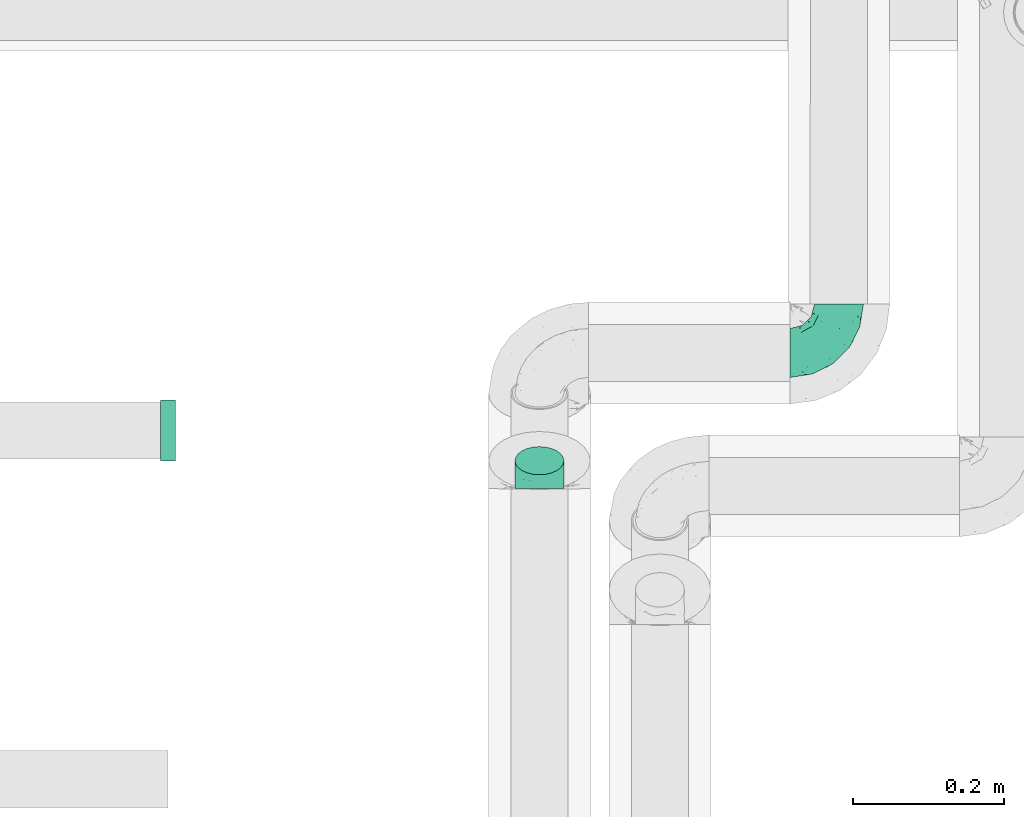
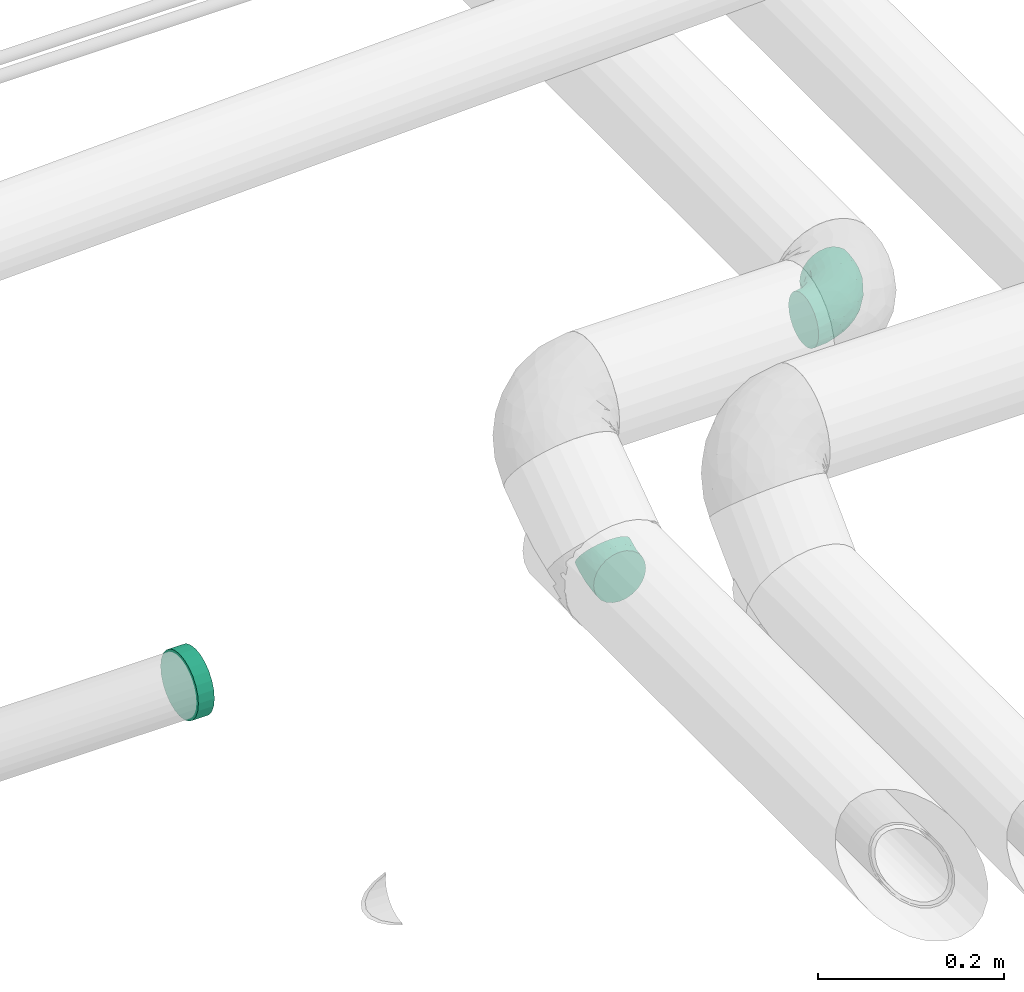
# One storey, part 127 of 156: 3 flow fittings.
"""IFC2X3 building model written with IfcOpenShell, lengths in millimetres."""

from ifc_helpers import new_model, entity, si_unit, converted_unit, derived_unit, direction, frame, origin_with_axes, place, context, subcontext, project, spatial, open_shell, surface_model, source, transform, mapped, type_object, element, save


model = new_model("IFC2X3")

# Units and contexts
model_context = context("Model", 3, precision=0.01, world=frame((0.0, 4.29681676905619e-09, 0.0)), true_north=direction((4.01073788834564e-13, 1.0)))
plan_context = context("Plan", 3, precision=0.01, world=frame((0.0, 4.29681676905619e-09, 0.0)), true_north=direction((4.01073788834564e-13, 1.0)))
body_context = subcontext(model_context, "Body", "Model", "MODEL_VIEW")
ifc_project = project(units=[converted_unit("PLANEANGLEUNIT", "DEGREE", entity("IfcPositiveLengthMeasure", 0.0174532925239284), si_unit("PLANEANGLEUNIT", "RADIAN"), dimensions=[0, 0, 0, 0, 0, 0, 0]), si_unit("AREAUNIT", "SQUARE_METRE"), si_unit("LENGTHUNIT", "METRE", prefix="MILLI"), si_unit("MASSUNIT", "GRAM", prefix="KILO"), si_unit("POWERUNIT", "WATT"), si_unit("PRESSUREUNIT", "PASCAL", prefix="KILO"), si_unit("FORCEUNIT", "NEWTON", prefix="KILO"), si_unit("ELECTRICVOLTAGEUNIT", "VOLT"), si_unit("ELECTRICCURRENTUNIT", "AMPERE"), si_unit("THERMODYNAMICTEMPERATUREUNIT", "DEGREE_CELSIUS"), si_unit("TIMEUNIT", "SECOND"), si_unit("VOLUMEUNIT", "CUBIC_METRE"), derived_unit("LINEARVELOCITYUNIT", [(si_unit("LENGTHUNIT", "METRE"), 1), (si_unit("TIMEUNIT", "SECOND"), -1)]), derived_unit("VOLUMETRICFLOWRATEUNIT", [(si_unit("VOLUMEUNIT", "CUBIC_METRE"), 1), (si_unit("TIMEUNIT", "SECOND"), -1)]), derived_unit("THERMALTRANSMITTANCEUNIT", [(si_unit("POWERUNIT", "WATT"), 1), (si_unit("THERMODYNAMICTEMPERATUREUNIT", "KELVIN"), -1), (si_unit("AREAUNIT", "SQUARE_METRE"), -1)]), derived_unit("SOUNDPRESSUREUNIT", [(si_unit("PRESSUREUNIT", "PASCAL"), 1)])], contexts=[model_context, plan_context])

# Site, building, storey
site_placement = place(None, frame((0.0, -4.29681676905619e-09, 0.0), z_axis=(0.0, 0.0, 1.0), x_axis=(1.0, 0.0, 0.0)))
site = spatial("IfcSite", under=ifc_project, at=site_placement, CompositionType="ELEMENT")
building_placement = place(site_placement, frame((0.0, 4.29681676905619e-09, 0.0), z_axis=(0.0, 0.0, 1.0), x_axis=(1.0, 0.0, 0.0)))
building = spatial("IfcBuilding", under=site, at=building_placement, Name="mc-building", CompositionType="ELEMENT")
storey_placement = place(building_placement, frame((0.0, 0.0, 205200.0), z_axis=(0.0, 0.0, 1.0), x_axis=(1.0, 0.0, 0.0)))
storey = spatial("IfcBuildingStorey", under=building, at=storey_placement, Name="Nivå D + 1,2 m", CompositionType="ELEMENT", Elevation=205200.0)

# Flow fittings
pipe_fitting_type_1 = type_object("IfcPipeFittingType", Name="magi_pipe_elbow_short_001", PredefinedType="BEND")
shared_shape_1 = source(origin_with_axes(), body_context, "Body", "SurfaceModel", [
    surface_model("IfcShellBasedSurfaceModel", [(-20.44742, 16.25, -28.14582), (-20.44742, 8.41162, -31.39259), (-20.44742, 0.0, -32.5), (-20.44742, -22.98097, -22.98097), (-20.44742, 31.39259, -8.41162), (-20.44742, 28.14582, -16.25), (-20.44742, 22.98097, -22.98097), (-20.44742, -32.5, 0.0), (-20.44742, -31.39259, 8.41162), (-20.44742, -16.25, -28.14582), (-20.44742, -8.41162, -31.39259), (-20.44742, -31.39259, -8.41162), (-20.44742, -28.14582, -16.25), (-20.44742, -22.98097, 22.98097), (-20.44742, 31.39259, 8.41162), (-20.44742, 28.14582, 16.25), (-20.44742, 16.25, 28.14582), (-20.44742, 22.98097, 22.98097), (-20.44742, 0.0, 32.5), (-20.44742, 8.41162, 31.39259), (-20.44742, -28.14582, 16.25), (-20.44742, -8.41162, 31.39259), (-20.44742, -16.25, 28.14582), (-20.44742, 32.5, 0.0), (16.76496, 11.70611, -32.5), (11.94933, 18.60285, -31.39259), (7.46187, 25.02959, -28.14582), (3.6084, 30.54835, -22.98097), (0.65153, 34.78304, -16.25), (-1.20724, 37.44508, -8.41162), (35.37116, -14.94083, 0.0), (26.06806, -1.61736, -28.14582), (29.92153, -7.13612, -22.98097), (21.5806, 4.80938, -31.39259), (32.8784, -11.37082, -16.25), (34.73716, -14.03286, -8.41162), (-1.20724, 37.44508, 8.41162), (29.92153, -7.13612, 22.98097), (3.6084, 30.54835, 22.98097), (0.65153, 34.78304, 16.25), (7.46187, 25.02959, 28.14582), (11.94933, 18.60285, 31.39259), (16.76496, 11.70611, 32.5), (32.8784, -11.37082, 16.25), (34.73716, -14.03286, 8.41162), (26.06806, -1.61736, 28.14582), (21.5806, 4.80938, 31.39259), (-1.84123, 38.35306, 0.0), (-8.07174, -25.27191, 19.344), (3.08739, -9.81447, 29.59585), (-10.28617, -12.19665, 29.84636), (-3.10169, -18.61516, 25.30373), (21.08619, -16.09953, 19.344), (-4.82066, -3.20527, 32.11735), (-4.44783, -30.04281, 0.0), (1.96174, -29.39183, 5.59145), (-1.94084, 6.16971, 32.32921), (-2.32108, -28.5935, 11.66973), (7.01593, -22.30283, 18.78585), (15.41626, -4.11129, 29.84636), (-8.55352, 27.19064, 20.32037), (-6.69659, 21.28768, 26.23998), (14.813, -25.36412, 5.67974), (8.81022, -28.00667, 0.0), (18.27279, -22.11516, 11.66973), (14.43697, -12.89278, 25.34219), (-10.51703, 33.43243, 6.17831), (-10.69488, 33.99778, 0.0), (-9.882, 31.41376, 12.98992), (-6.76496, 13.56117, 30.29286), (9.12135, 1.7729, 32.14365), (20.84626, -22.08591, 0.0), (-8.49363, -3.76835, -32.14365), (-2.32108, -28.5935, -11.66973), (18.27279, -22.11516, -11.66973), (14.81299, -25.36412, -5.67974), (5.7875, 0.1318, -32.11735), (-1.94084, 6.16971, -32.32921), (-8.55352, 27.19064, -20.32037), (1.96173, -29.39183, -5.59145), (-6.69659, 21.28767, -26.23999), (-10.51703, 33.43243, -6.17831), (-9.88201, 31.41376, -12.98992), (13.20024, -13.48697, -25.30373), (7.01593, -22.30283, -18.78585), (-8.07174, -25.27191, -19.344), (-4.45587, -18.83601, -25.34219), (-2.21712, 14.99181, -30.29286), (-10.28617, -12.19665, -29.84636), (3.08739, -9.81447, -29.59585), (15.41626, -4.11129, -29.84636), (21.08619, -16.09953, -19.344)], [open_shell([[[0, 1, 2]], [[0, 2, 3]], [[4, 5, 6]], [[6, 0, 7]], [[6, 7, 8]], [[9, 3, 10]], [[3, 2, 10]], [[11, 7, 12]], [[3, 12, 7]], [[3, 7, 0]], [[8, 4, 6]], [[13, 14, 4]], [[15, 14, 16]], [[13, 16, 14]], [[17, 15, 16]], [[16, 18, 19]], [[20, 13, 8]], [[8, 13, 4]], [[21, 18, 22]], [[16, 13, 22]], [[16, 22, 18]], [[23, 4, 14]], [[24, 25, 26]], [[24, 26, 27]], [[27, 28, 29]], [[24, 27, 30]], [[30, 27, 29]], [[31, 30, 32]], [[31, 33, 24]], [[34, 30, 35]], [[30, 34, 32]], [[24, 30, 31]], [[29, 36, 30]], [[37, 30, 36]], [[38, 36, 39]], [[36, 40, 37]], [[40, 36, 38]], [[41, 42, 40]], [[30, 43, 44]], [[37, 43, 30]], [[45, 42, 46]], [[45, 37, 40]], [[42, 45, 40]], [[29, 47, 36]], [[20, 48, 13]], [[49, 50, 51]], [[22, 13, 51]], [[43, 37, 52]], [[18, 21, 53]], [[21, 22, 50]], [[8, 54, 55]], [[53, 56, 18]], [[18, 56, 19]], [[42, 41, 56]], [[48, 57, 58]], [[45, 46, 59]], [[17, 60, 15]], [[61, 17, 16]], [[62, 55, 63]], [[58, 57, 64]], [[58, 52, 65]], [[23, 66, 67]], [[20, 8, 57]], [[23, 14, 66]], [[14, 15, 68]], [[16, 19, 69]], [[69, 61, 16]], [[48, 51, 13]], [[63, 55, 54]], [[57, 55, 62]], [[70, 56, 53]], [[45, 65, 37]], [[38, 39, 60]], [[70, 46, 42]], [[44, 71, 30]], [[64, 43, 52]], [[62, 44, 64]], [[51, 65, 49]], [[8, 55, 57]], [[63, 71, 62]], [[62, 64, 57]], [[8, 7, 54]], [[66, 68, 36]], [[67, 66, 47]], [[49, 59, 70]], [[50, 53, 21]], [[41, 69, 56]], [[41, 40, 69]], [[58, 65, 51]], [[38, 60, 61]], [[19, 56, 69]], [[60, 39, 68]], [[40, 61, 69]], [[65, 45, 59]], [[61, 60, 17]], [[43, 64, 44]], [[44, 62, 71]], [[40, 38, 61]], [[60, 68, 15]], [[39, 36, 68]], [[56, 70, 42]], [[49, 70, 53]], [[57, 48, 20]], [[51, 48, 58]], [[65, 52, 37]], [[64, 52, 58]], [[68, 66, 14]], [[47, 66, 36]], [[51, 50, 22]], [[53, 50, 49]], [[70, 59, 46]], [[65, 59, 49]], [[10, 2, 72]], [[73, 74, 75]], [[24, 33, 76]], [[2, 1, 77]], [[78, 6, 5]], [[11, 79, 54]], [[6, 78, 80]], [[34, 35, 74]], [[4, 81, 82]], [[31, 32, 83]], [[84, 85, 86]], [[1, 0, 87]], [[79, 11, 73]], [[71, 63, 75]], [[35, 75, 74]], [[85, 73, 12]], [[9, 86, 3]], [[26, 25, 87]], [[12, 73, 11]], [[3, 85, 12]], [[88, 9, 10]], [[89, 88, 72]], [[1, 87, 77]], [[86, 9, 88]], [[23, 67, 81]], [[35, 30, 71]], [[47, 29, 81]], [[25, 77, 87]], [[75, 79, 73]], [[82, 5, 4]], [[78, 28, 27]], [[89, 83, 86]], [[87, 80, 26]], [[77, 76, 72]], [[0, 80, 87]], [[6, 80, 0]], [[84, 74, 73]], [[24, 77, 25]], [[90, 33, 31]], [[91, 83, 32]], [[27, 26, 80]], [[83, 89, 90]], [[74, 84, 91]], [[84, 86, 83]], [[79, 75, 63]], [[80, 78, 27]], [[54, 79, 63]], [[91, 32, 34]], [[90, 76, 33]], [[77, 24, 76]], [[54, 7, 11]], [[23, 81, 4]], [[75, 35, 71]], [[78, 5, 82]], [[29, 28, 82]], [[78, 82, 28]], [[77, 72, 2]], [[89, 72, 76]], [[86, 85, 3]], [[73, 85, 84]], [[74, 91, 34]], [[83, 91, 84]], [[47, 81, 67]], [[82, 81, 29]], [[72, 88, 10]], [[86, 88, 89]], [[83, 90, 31]], [[76, 90, 89]]])]),
])
flow_fitting_1_placement = place(storey_placement, frame((329697.42979, 461515.58914, 4051.25266), z_axis=(1.0, 0.0, 0.0), x_axis=(0.0, 0.999997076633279, 0.00241800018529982)))
element("IfcFlowFitting", 1, at=flow_fitting_1_placement, inside=storey, type_object=pipe_fitting_type_1, Name="magi_pipe_elbow_short_001", context=body_context, shape_type="MappedRepresentation", body=[
    mapped(shared_shape_1, transform((0.0, 0.0, 0.0), scale=1.0)),
])
shared_shape_2 = source(origin_with_axes(), body_context, "Body", "SurfaceModel", [
    surface_model("IfcShellBasedSurfaceModel", [(-64.98326, 16.25, -28.14582), (-64.98326, 8.41162, -31.39259), (-64.98326, 0.0, -32.5), (-64.98326, -22.98097, -22.98097), (-64.98326, 31.39259, -8.41162), (-64.98326, 28.14582, -16.25), (-64.98326, 22.98097, -22.98097), (-64.98326, -32.5, 0.0), (-64.98326, -31.39259, 8.41162), (-64.98326, -16.25, -28.14582), (-64.98326, -8.41162, -31.39259), (-64.98326, -31.39259, -8.41162), (-64.98326, -28.14582, -16.25), (-64.98326, -22.98097, 22.98097), (-64.98326, 31.39259, 8.41162), (-64.98326, 28.14582, 16.25), (-64.98326, 16.25, 28.14582), (-64.98326, 22.98097, 22.98097), (-64.98326, 0.0, 32.5), (-64.98326, 8.41162, 31.39259), (-64.98326, -28.14582, 16.25), (-64.98326, -8.41162, 31.39259), (-64.98326, -16.25, 28.14582), (-64.98326, 32.5, 0.0), (0.01674, 64.98325, -32.5), (-8.39488, 64.98542, -31.39259), (-16.23326, 64.98744, -28.14582), (22.99771, 64.97733, -22.98097), (-22.96423, 64.98917, -22.98097), (-28.12908, 64.99051, -16.25), (-31.37585, 64.99134, -8.41162), (8.42836, 64.98109, -31.39259), (16.26674, 64.97906, -28.14582), (28.16257, 64.976, -16.25), (32.51674, 64.97488, 0.0), (31.40933, 64.97516, -8.41162), (-32.48326, 64.99163, 0.0), (-31.37585, 64.99134, 8.41162), (-28.12908, 64.99051, 16.25), (-16.23326, 64.98744, 28.14582), (22.99771, 64.97733, 22.98097), (-22.96423, 64.98917, 22.98097), (0.01674, 64.98325, 32.5), (-8.39488, 64.98542, 31.39259), (28.16257, 64.976, 16.25), (31.40933, 64.97516, 8.41162), (16.26674, 64.97906, 28.14582), (8.42836, 64.98109, 31.39259), (-43.89066, -28.50353, 10.21466), (-47.64957, -25.24696, 18.24354), (-34.85888, -27.72956, 0.0), (-48.99915, -29.96879, 0.0), (-8.31321, -11.23072, 12.53006), (-2.25661, -8.69189, 6.83298), (1.88723, -1.88772, 13.46086), (-49.63572, -4.30541, 31.94428), (-45.49593, 4.98175, 32.44457), (11.11182, 7.92666, 12.20785), (19.85132, 26.42184, 16.16572), (7.61851, 11.77667, 20.74153), (-32.34517, -0.29294, 31.50102), (-47.52496, -12.26193, 29.22893), (-25.22467, -7.67596, 27.16557), (-41.67273, -18.56609, 24.14352), (-29.10781, -24.91197, 6.68517), (-21.2706, -20.80731, 0.0), (-11.77863, -7.61547, 20.74153), (-5.79767, 5.79917, 26.57286), (-31.75562, 51.8635, 14.12535), (-27.13636, 50.59009, 21.35108), (-12.11726, 56.04907, 30.4419), (-4.44183, 48.60119, 32.42014), (-50.08287, 12.74652, 30.70079), (-8.47472, 21.75652, 31.9116), (-16.13717, 5.96142, 30.34953), (-3.30882, 17.55198, 29.86714), (-56.21537, 19.68135, 26.48146), (-11.2868, 31.95288, 32.4415), (-24.06301, 24.06921, 31.70992), (-19.34438, 14.19833, 32.3329), (-51.3717, 34.61441, 7.14455), (-51.87149, 31.76372, 14.12319), (-40.33959, 40.34999, 12.14838), (-50.78983, 27.09253, 21.32833), (18.57682, 41.66795, 24.14352), (-33.69077, 43.07772, 18.39584), (12.27418, 47.52179, 29.22893), (25.25924, 47.64307, 18.24354), (28.51483, 43.88331, 10.21466), (-7.68232, -13.88506, 0.0), (-15.77174, -17.88153, 8.41956), (4.3182, 49.63461, 31.94428), (-35.70066, 13.91931, 31.91834), (-31.8802, 7.96314, 32.4862), (20.81279, 21.26524, 0.0), (24.91947, 29.10139, 6.68517), (17.88559, 15.76713, 8.41956), (29.98141, 48.99143, 0.0), (-34.54121, 22.04823, 30.0603), (-26.42695, -19.84451, 16.16572), (-23.55115, 41.99729, 27.31506), (-19.84121, 54.48647, 26.61642), (-34.19659, 52.42263, 6.97234), (-40.72027, 42.62188, 5.71912), (14.98065, 26.16119, 22.02686), (7.68246, 25.22269, 27.16557), (-36.84022, 48.74517, 0.0), (-30.0773, 34.31338, 26.70471), (-44.74202, 22.06031, 27.36777), (-0.4853, 0.48543, 19.19548), (-18.53631, 33.63685, 31.24173), (-25.88267, 31.45821, 29.57083), (-14.04359, 44.02919, 30.95143), (-34.24828, 36.28945, 23.02058), (-41.72697, 34.92084, 18.12163), (0.30127, 32.34509, 31.50102), (-26.04302, -14.24426, 22.66266), (8.8704, 2.35004, 6.48122), (27.73854, 34.85173, 0.0), (13.88704, 7.67874, 0.0), (-48.73567, 36.85278, 0.0), (3.10236, -3.10316, 0.0), (-47.91132, 27.98902, -21.64728), (-51.84402, 31.77266, -14.12686), (-26.54199, -8.20713, -27.26622), (-28.20949, -0.40798, -30.91139), (-13.05426, -0.54925, -26.63303), (-51.43579, 4.1094, -32.39418), (-47.39643, -29.09488, -10.59562), (-40.82035, -24.10145, -17.60363), (-30.99567, -24.3715, -10.90458), (-47.2693, 13.26671, -30.81863), (-35.79159, 7.68184, -32.49296), (-27.97668, 47.91852, -21.64728), (-52.60017, 34.10124, -7.11216), (-20.38582, 51.01128, -26.88527), (-13.25454, 47.27272, -30.81863), (-41.34079, 41.35144, -7.75913), (19.42871, 46.99795, -24.53823), (11.22668, 41.14011, -28.90501), (12.8265, 54.87008, -29.57882), (-6.32936, -11.44358, -8.558), (-6.40449, -8.42741, -14.80676), (3.49315, -2.77928, -8.57419), (-18.95348, 17.56921, -32.48158), (-30.79517, 19.22942, -31.53259), (-51.00602, 20.39897, -26.88527), (-54.70101, -25.87177, -18.88281), (-31.60689, 36.91412, -24.47839), (-30.02545, 30.03318, -28.53535), (-39.71181, 27.45079, -25.81928), (2.85794, -0.58994, -13.92966), (-47.00295, -19.4166, -24.53823), (24.11196, 40.81414, -17.60363), (29.10709, 47.38893, -10.59562), (24.37949, 30.98939, -10.90458), (-54.87338, -12.81237, -29.57882), (4.10998, 47.86576, -31.90584), (-20.55079, -15.83082, -17.72953), (-24.25295, -13.25852, -22.73604), (-11.77377, -8.04229, -20.31504), (-35.45427, -14.84225, -25.51707), (-41.143, -11.21608, -28.90501), (-47.86682, -4.09765, -31.90584), (-24.34353, 39.97588, -27.52939), (-34.08769, 52.60896, -7.11216), (-4.09615, 51.43684, -32.39418), (-11.46489, 11.46784, -30.68945), (0.41524, 28.20939, -30.91139), (1.37448, 15.25449, -27.10423), (-31.75931, 51.8522, -14.12686), (-39.02056, 39.03061, -16.01805), (25.88586, 54.69435, -18.88281), (18.84191, 26.09169, -17.45488), (10.48347, 12.30678, -18.02662), (13.26477, 24.24954, -22.73604), (6.7253, 27.73064, -28.39233), (-7.67261, 35.79357, -32.49296), (-39.49734, 20.9154, -29.29235), (-19.37083, 31.62306, -31.3742), (-0.30053, 0.30061, -18.83322), (-15.04468, -18.17522, -5.59169), (16.66949, 16.1273, -12.1051), (18.1791, 15.04, -5.59169), (3.83854, 9.89876, -22.79822), (-16.13159, -16.66534, -12.1051)], [open_shell([[[0, 1, 2]], [[0, 2, 3]], [[4, 5, 6]], [[6, 0, 7]], [[6, 7, 8]], [[9, 3, 10]], [[3, 2, 10]], [[11, 7, 12]], [[3, 12, 7]], [[3, 7, 0]], [[8, 4, 6]], [[13, 14, 4]], [[15, 14, 16]], [[13, 16, 14]], [[17, 15, 16]], [[16, 18, 19]], [[20, 13, 8]], [[8, 13, 4]], [[21, 18, 22]], [[16, 13, 22]], [[16, 22, 18]], [[23, 4, 14]], [[24, 25, 26]], [[27, 24, 26]], [[28, 29, 30]], [[27, 26, 28]], [[27, 28, 30]], [[31, 27, 32]], [[31, 24, 27]], [[33, 34, 35]], [[34, 33, 27]], [[30, 34, 27]], [[30, 36, 34]], [[36, 37, 38]], [[36, 38, 39]], [[36, 39, 40]], [[39, 38, 41]], [[42, 39, 43]], [[34, 44, 45]], [[40, 44, 34]], [[46, 42, 47]], [[42, 46, 40]], [[39, 42, 40]], [[40, 34, 36]], [[48, 49, 20]], [[50, 48, 51]], [[52, 53, 54]], [[8, 48, 20]], [[8, 51, 48]], [[18, 55, 56]], [[20, 49, 13]], [[57, 58, 59]], [[60, 61, 62]], [[63, 22, 13]], [[63, 61, 22]], [[64, 50, 65]], [[62, 66, 67]], [[38, 68, 69]], [[43, 70, 71]], [[19, 72, 16]], [[73, 74, 75]], [[16, 76, 17]], [[21, 55, 18]], [[77, 78, 79]], [[80, 81, 82]], [[15, 83, 81]], [[84, 40, 46]], [[23, 14, 80]], [[14, 15, 81]], [[68, 85, 69]], [[83, 15, 17]], [[18, 56, 19]], [[46, 86, 84]], [[17, 76, 83]], [[87, 58, 88]], [[38, 37, 68]], [[89, 90, 65]], [[42, 91, 47]], [[65, 90, 64]], [[42, 43, 71]], [[92, 93, 79]], [[88, 45, 44]], [[44, 40, 87]], [[87, 88, 44]], [[94, 95, 96]], [[88, 97, 45]], [[98, 72, 92]], [[49, 99, 63]], [[69, 100, 101]], [[82, 102, 103]], [[104, 105, 59]], [[106, 102, 36]], [[98, 107, 108]], [[102, 82, 68]], [[86, 46, 47]], [[69, 41, 38]], [[109, 54, 57]], [[110, 100, 111]], [[22, 61, 21]], [[101, 39, 41]], [[70, 43, 39]], [[112, 77, 71]], [[84, 86, 105]], [[96, 95, 58]], [[100, 69, 113]], [[72, 19, 56]], [[108, 113, 83]], [[81, 114, 82]], [[112, 110, 77]], [[91, 71, 115]], [[62, 61, 63]], [[55, 61, 60]], [[116, 99, 66]], [[74, 62, 67]], [[91, 86, 47]], [[105, 86, 115]], [[75, 105, 115]], [[109, 67, 66]], [[59, 105, 67]], [[48, 64, 99]], [[99, 49, 48]], [[63, 13, 49]], [[40, 84, 87]], [[58, 87, 84]], [[92, 72, 56]], [[76, 72, 108]], [[102, 68, 37]], [[82, 114, 85]], [[98, 111, 107]], [[112, 70, 101]], [[114, 83, 113]], [[82, 103, 80]], [[92, 79, 78]], [[115, 71, 77]], [[74, 79, 60]], [[77, 79, 73]], [[71, 91, 42]], [[86, 91, 115]], [[61, 55, 21]], [[56, 55, 60]], [[57, 54, 117]], [[104, 59, 58]], [[116, 66, 62]], [[52, 99, 90]], [[8, 7, 51]], [[97, 88, 118]], [[97, 34, 45]], [[53, 90, 89]], [[90, 53, 52]], [[94, 96, 119]], [[88, 95, 118]], [[117, 54, 53]], [[92, 56, 93]], [[98, 92, 78]], [[111, 98, 78]], [[72, 98, 108]], [[110, 111, 78]], [[107, 111, 100]], [[36, 102, 37]], [[102, 106, 103]], [[106, 120, 103]], [[103, 120, 80]], [[23, 80, 120]], [[14, 81, 80]], [[56, 60, 93]], [[60, 79, 93]], [[117, 121, 119]], [[121, 117, 53]], [[53, 89, 121]], [[119, 96, 117]], [[117, 96, 57]], [[77, 110, 78]], [[100, 110, 112]], [[83, 114, 81]], [[85, 114, 113]], [[69, 85, 113]], [[82, 85, 68]], [[109, 52, 54]], [[99, 52, 66]], [[69, 101, 41]], [[112, 101, 100]], [[100, 113, 107]], [[108, 107, 113]], [[62, 74, 60]], [[75, 74, 67]], [[105, 75, 67]], [[73, 75, 115]], [[77, 73, 115]], [[74, 73, 79]], [[99, 64, 90]], [[50, 64, 48]], [[118, 95, 94]], [[58, 95, 88]], [[58, 57, 96]], [[109, 57, 59]], [[72, 76, 16]], [[83, 76, 108]], [[101, 70, 39]], [[71, 70, 112]], [[58, 84, 104]], [[105, 104, 84]], [[67, 109, 59]], [[52, 109, 66]], [[62, 63, 116]], [[99, 116, 63]], [[122, 5, 123]], [[124, 125, 126]], [[2, 1, 127]], [[128, 129, 130]], [[127, 131, 132]], [[29, 28, 133]], [[120, 134, 23]], [[135, 26, 136]], [[123, 134, 137]], [[138, 139, 140]], [[122, 6, 5]], [[141, 142, 143]], [[144, 132, 145]], [[131, 0, 146]], [[128, 12, 147]], [[148, 149, 150]], [[128, 51, 11]], [[142, 151, 143]], [[152, 3, 9]], [[153, 154, 155]], [[156, 152, 9]], [[31, 157, 24]], [[158, 159, 160]], [[147, 12, 3]], [[129, 152, 161]], [[156, 9, 10]], [[162, 163, 125]], [[154, 33, 35]], [[120, 106, 137]], [[149, 148, 164]], [[36, 30, 165]], [[163, 10, 2]], [[5, 4, 123]], [[25, 166, 136]], [[167, 168, 169]], [[170, 133, 171]], [[25, 24, 166]], [[32, 27, 138]], [[157, 31, 140]], [[30, 29, 170]], [[27, 33, 172]], [[26, 135, 28]], [[132, 131, 145]], [[31, 32, 140]], [[173, 174, 175]], [[169, 168, 176]], [[25, 136, 26]], [[175, 138, 173]], [[168, 177, 157]], [[163, 162, 156]], [[153, 172, 154]], [[12, 128, 11]], [[154, 97, 118]], [[131, 178, 145]], [[0, 6, 146]], [[175, 139, 138]], [[155, 118, 94]], [[131, 1, 0]], [[146, 178, 131]], [[170, 137, 165]], [[149, 179, 145]], [[171, 133, 148]], [[160, 180, 142]], [[65, 181, 89]], [[170, 165, 30]], [[137, 171, 123]], [[172, 138, 27]], [[138, 153, 173]], [[168, 157, 139]], [[166, 157, 177]], [[176, 175, 169]], [[168, 167, 144]], [[154, 35, 97]], [[155, 182, 173]], [[162, 124, 161]], [[147, 152, 129]], [[127, 163, 2]], [[132, 144, 125]], [[132, 125, 163]], [[125, 167, 126]], [[129, 158, 130]], [[35, 34, 97]], [[143, 182, 183]], [[169, 126, 167]], [[6, 122, 146]], [[178, 150, 149]], [[136, 179, 164]], [[133, 28, 135]], [[123, 4, 134]], [[122, 123, 171]], [[133, 170, 29]], [[137, 170, 171]], [[184, 175, 174]], [[180, 160, 126]], [[126, 169, 184]], [[126, 159, 124]], [[51, 128, 50]], [[51, 7, 11]], [[131, 127, 1]], [[163, 127, 132]], [[157, 166, 24]], [[136, 166, 177]], [[164, 179, 149]], [[144, 167, 125]], [[179, 144, 145]], [[168, 144, 177]], [[136, 177, 179]], [[144, 179, 177]], [[141, 121, 89]], [[89, 181, 141]], [[154, 118, 155]], [[183, 155, 94]], [[143, 183, 119]], [[119, 183, 94]], [[155, 183, 182]], [[181, 130, 185]], [[50, 128, 130]], [[130, 181, 65]], [[50, 130, 65]], [[141, 181, 185]], [[142, 141, 185]], [[143, 121, 141]], [[158, 160, 142]], [[142, 180, 151]], [[158, 142, 185]], [[126, 160, 159]], [[130, 158, 185]], [[129, 159, 158]], [[23, 134, 4]], [[120, 137, 134]], [[137, 106, 165]], [[36, 165, 106]], [[174, 151, 180]], [[182, 143, 151]], [[150, 146, 122]], [[149, 145, 178]], [[146, 150, 178]], [[122, 171, 148]], [[148, 150, 122]], [[164, 133, 135]], [[133, 164, 148]], [[164, 135, 136]], [[138, 140, 32]], [[157, 140, 139]], [[154, 172, 33]], [[138, 172, 153]], [[163, 156, 10]], [[152, 156, 162]], [[152, 147, 3]], [[128, 147, 129]], [[155, 173, 153]], [[174, 173, 182]], [[151, 174, 182]], [[174, 180, 184]], [[126, 184, 180]], [[175, 184, 169]], [[168, 139, 176]], [[175, 176, 139]], [[161, 124, 159]], [[125, 124, 162]], [[129, 161, 159]], [[162, 161, 152]], [[143, 119, 121]]])]),
])
flow_fitting_2_placement = place(storey_placement, frame((330095.24229, 461675.28932, 4163.33854999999), z_axis=(0.0, 0.0, 1.0), x_axis=(1.0, 0.0, 0.0)))
element("IfcFlowFitting", 2, at=flow_fitting_2_placement, inside=storey, type_object=pipe_fitting_type_1, Name="magi_pipe_elbow_short_001", context=body_context, shape_type="MappedRepresentation", body=[
    mapped(shared_shape_2, transform((0.0, 0.0, 0.0), scale=1.0)),
])
pipe_fitting_type_2 = type_object("IfcPipeFittingType", Name="magi_sewer_endcap_001", PredefinedType="OBSTRUCTION")
shared_shape_3 = source(origin_with_axes(), body_context, "Body", "SurfaceModel", [
    surface_model("IfcShellBasedSurfaceModel", [(20.0, 35.29054, -20.375), (20.0, 10.54688, -39.36148), (20.0, 20.375, -35.29054), (20.0, 28.8146, -28.8146), (20.0, 39.36148, -10.54688), (20.0, 0.0, -40.75), (20.0, 40.75, 0.0), (20.0, -20.375, -35.29054), (20.0, -10.54688, -39.36148), (20.0, -28.8146, -28.8146), (20.0, -39.36148, -10.54688), (20.0, -35.29054, -20.375), (20.0, 39.36148, 10.54688), (20.0, 35.29054, 20.375), (20.0, 28.8146, 28.8146), (20.0, -10.54688, 39.36148), (20.0, 20.375, 35.29054), (20.0, 10.54688, 39.36148), (20.0, 0.0, 40.75), (20.0, -39.36148, 10.54688), (20.0, -28.8146, 28.8146), (20.0, -35.29054, 20.375), (20.0, -40.75, 0.0), (20.0, -20.375, 35.29054), (0.0, 0.0, 40.75), (0.0, 10.54688, 39.36148), (0.0, 20.375, 35.29054), (0.0, 28.8146, 28.8146), (0.0, 35.29054, 20.375), (0.0, 39.36148, 10.54688), (0.0, -40.75, 0.0), (0.0, -10.54688, 39.36148), (0.0, -28.8146, 28.8146), (0.0, -20.375, 35.29054), (0.0, -39.36148, 10.54688), (0.0, -35.29054, 20.375), (0.0, 39.36148, -10.54688), (0.0, -39.36148, -10.54688), (0.0, 10.54688, -39.36148), (0.0, 35.29054, -20.375), (0.0, 20.375, -35.29054), (0.0, 28.8146, -28.8146), (0.0, -28.8146, -28.8146), (0.0, -35.29054, -20.375), (0.0, -20.375, -35.29054), (0.0, 0.0, -40.75), (0.0, -10.54688, -39.36148), (0.0, 40.75, 0.0)], [open_shell([[[0, 1, 2]], [[0, 2, 3]], [[1, 4, 5]], [[4, 1, 0]], [[5, 4, 6]], [[5, 7, 8]], [[5, 6, 7]], [[9, 10, 11]], [[10, 9, 7]], [[7, 12, 10]], [[7, 6, 12]], [[12, 13, 14]], [[15, 12, 14]], [[16, 17, 18]], [[16, 18, 14]], [[15, 14, 18]], [[19, 20, 21]], [[22, 10, 19]], [[20, 15, 23]], [[15, 20, 19]], [[12, 15, 19]], [[19, 10, 12]], [[24, 25, 26]], [[24, 26, 27]], [[27, 28, 29]], [[27, 29, 24]], [[24, 29, 30]], [[31, 32, 33]], [[32, 31, 34]], [[32, 34, 35]], [[31, 24, 34]], [[24, 30, 34]], [[29, 36, 30]], [[37, 30, 36]], [[38, 36, 39]], [[40, 38, 39]], [[40, 39, 41]], [[37, 36, 38]], [[37, 42, 43]], [[42, 37, 44]], [[44, 45, 46]], [[44, 37, 38]], [[38, 45, 44]], [[36, 29, 47]], [[37, 10, 30]], [[43, 11, 37]], [[7, 42, 44]], [[43, 42, 9]], [[8, 44, 46]], [[37, 11, 10]], [[10, 22, 30]], [[8, 7, 44]], [[9, 42, 7]], [[9, 11, 43]], [[5, 8, 46]], [[46, 45, 5]], [[38, 1, 45]], [[40, 2, 38]], [[0, 41, 39]], [[40, 41, 3]], [[4, 39, 36]], [[40, 3, 2]], [[2, 1, 38]], [[6, 4, 36]], [[0, 39, 4]], [[0, 3, 41]], [[47, 6, 36]], [[45, 1, 5]], [[29, 12, 47]], [[28, 13, 29]], [[16, 27, 26]], [[28, 27, 14]], [[17, 26, 25]], [[29, 13, 12]], [[12, 6, 47]], [[17, 16, 26]], [[14, 27, 16]], [[14, 13, 28]], [[18, 17, 25]], [[25, 24, 18]], [[31, 15, 24]], [[33, 23, 31]], [[21, 32, 35]], [[33, 32, 20]], [[19, 35, 34]], [[33, 20, 23]], [[23, 15, 31]], [[30, 22, 19]], [[21, 35, 19]], [[21, 20, 32]], [[34, 30, 19]], [[24, 15, 18]]])]),
])
flow_fitting_3_placement = place(storey_placement, frame((329194.18081, 461572.43973, 4038.0), z_axis=(0.0, 0.0, 1.0), x_axis=(1.0, 0.0, 0.0)))
element("IfcFlowFitting", 3, at=flow_fitting_3_placement, inside=storey, type_object=pipe_fitting_type_2, Name="magi_sewer_endcap_001", context=body_context, shape_type="MappedRepresentation", body=[
    mapped(shared_shape_3, transform((0.0, 0.0, 0.0), scale=1.0)),
])

save(model, "model.ifc")
